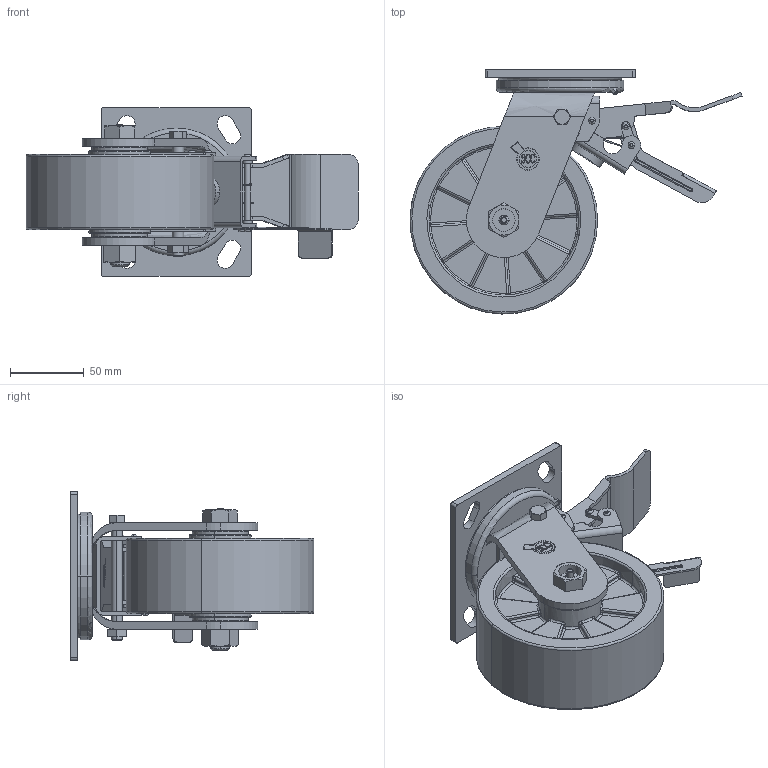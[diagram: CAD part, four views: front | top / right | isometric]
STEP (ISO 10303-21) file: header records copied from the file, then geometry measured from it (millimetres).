
FILE_DESCRIPTION (( 'STEP AP214' ), '1' );
FILE_NAME ('SCC-TTL30S520-GFNR 3D STEP.STEP', '2022-01-29T09:03:35', ( '' ), ( '' ), 'SwSTEP 2.0', 'SolidWorks 2016', '' );
FILE_SCHEMA (( 'AUTOMOTIVE_DESIGN' ));
Length unit declared in the file: inch
Products named in the file (1): SCC-TTL30S520-GFNR 3D STEP
Bounding box: 224.69 x 165.08 x 114.3 mm (x, y, z)
Volume: 927391.1 mm3; surface area: 258114 mm2
Topology: 9 solids, 9 shells, 1544 faces, 3958 edges, 2468 vertices
Faces by surface type: plane 569, cylinder 465, bspline 264, torus 135, sphere 60, cone 51
Entity records: 82270 total; most frequent: CARTESIAN_POINT 26019, ORIENTED_EDGE 7768, DIRECTION 7121, EDGE_CURVE 3884, AXIS2_PLACEMENT_3D 2603, VERTEX_POINT 2444, VECTOR 1915, LINE 1915
